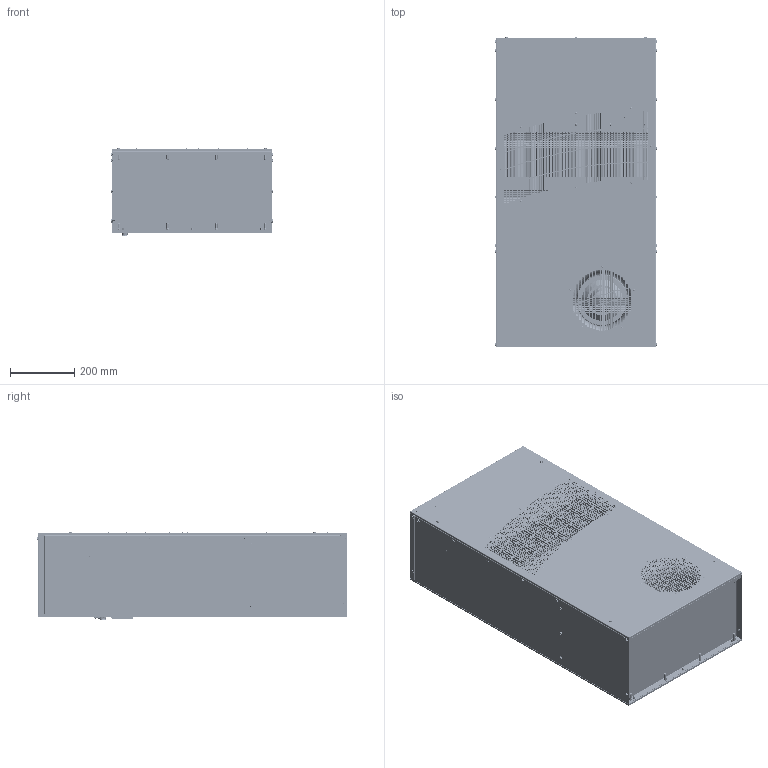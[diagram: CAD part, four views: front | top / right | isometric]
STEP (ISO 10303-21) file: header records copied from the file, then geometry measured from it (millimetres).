
FILE_DESCRIPTION (( 'STEP AP214' ), '1' );
FILE_NAME ('TX38.STEP', '2017-02-23T16:32:04', ( '' ), ( '' ), 'SwSTEP 2.0', 'SolidWorks 2014', '' );
FILE_SCHEMA (( 'AUTOMOTIVE_DESIGN' ));
Length unit declared in the file: inch
Products named in the file (61): 38-5110-06; 87417885; 10-1014-200_10-1014-200; 38-5111-00_flexible; 52-6048-40; 89095669_89095669; 89086871; 52-6031-03; 89086870; 38-5106-03; 89086869; 38-2023-02; 89129380; 10-1014-269_87547883; 52-6048-38; 10-1015-208_PEM CLSS-024-1 ---N; 10-1003-06; 38-5128-00; 89086866; 89112770; 10-1002-310; 10-1054-01; 38-5104-02; 89100024; 38-7005-04_Assembly; 38-5112-02; TX38; 04-2001-516; 90-2000-66; 10-1014-135_CR-PHMS 0.19-24x0.375x0.375-N; 10-1002-315; 89086867; 89112772; 89086868; 38-5113-02; 89095627; 10-1015-146; 89083535; 10-1002-266; 10-1015-26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
Assembly tree (221 placements, depth 3):
  TX38
    89112769
      89112770
      10-1015-208_PEM CLSS-024-1 ---N  x8
      89095669_89095669
      89095669_89095669
      89095669_89095669
      89095669_89095669
      10-1014-200_10-1014-200  x7
    38-2023-12
    10-1052-08  x2
    10-1002-289
    89092464  x10
    10-1061-16
    10-1015-26  x13
    10-1015-146  x14
    89086868  x2
    89086867  x2
    90-2000-66
    38-7005-04_Assembly
    10-1054-01  x2
    38-5128-00  x2
    10-1014-269_87547883  x44
    38-5111-00_flexible
      89086869  x2
      89086870
      89086871  x2
    38-5110-06
    89086864  x2
    38-5118-00
    38-5118-01
    89107047
    10-1097-23  x13
    03-63590-00  x13
    38-5113-02
      89083535
      10-1015-208_PEM CLSS-024-1 ---N  x6
    10-1014-135_CR-PHMS 0.19-24x0.375x0.375-N  x23
    38-5112-02
    38-5104-02
    89086866
    52-6048-38
    38-2023-02
    38-5106-03  x2
    52-6031-03  x2
    52-6048-40  x2
    10-1091-132  x2
      87417885
    38-5131-00
    89086865  x2
    38-5130-00
    10-1014-10  x5
    38-5114-04
    10-1002-266  x2
    89095627  x2
    89112772
    10-1002-315
    04-2001-516
    89100024
    10-1002-310
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Bounding box: 507.39 x 968.83 x 276.25 mm (x, y, z)
Volume: 7005393 mm3; surface area: 23022560.3 mm2
Topology: 420 solids, 423 shells, 28380 faces, 72543 edges, 46250 vertices
Faces by surface type: plane 17173, cylinder 4829, cone 3106, bspline 2653, torus 506, sphere 113
Entity records: 767652 total; most frequent: CARTESIAN_POINT 237419, ORIENTED_EDGE 93814, DIRECTION 78058, EDGE_CURVE 46911, VECTOR 35898, LINE 35898, VERTEX_POINT 30867, AXIS2_PLACEMENT_3D 21080
